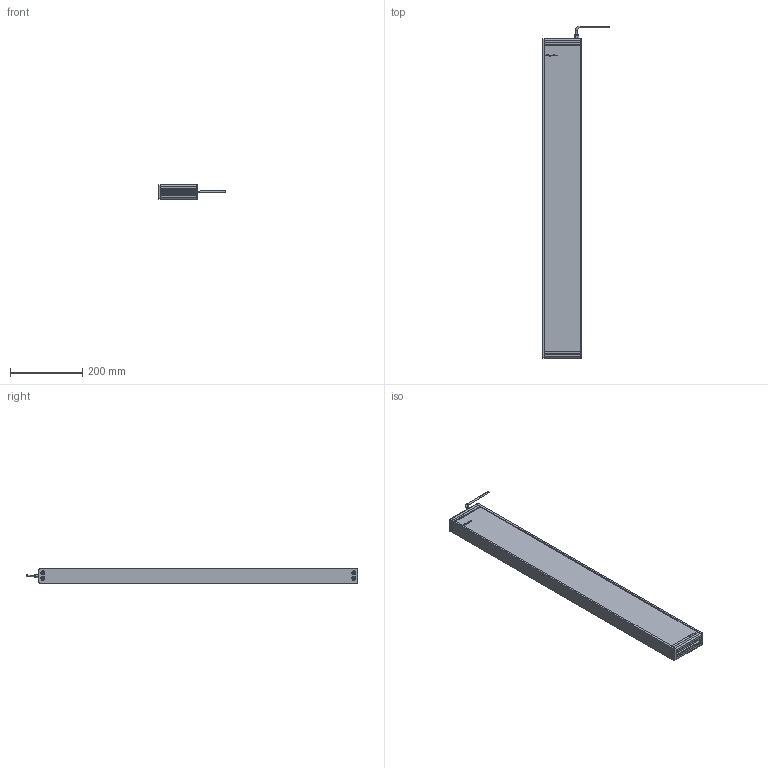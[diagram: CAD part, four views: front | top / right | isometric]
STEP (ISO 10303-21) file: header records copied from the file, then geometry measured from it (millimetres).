
FILE_DESCRIPTION (( 'STEP AP214' ), '1' );
FILE_NAME ('EFFI-BL-100T-850-1M12.STEP', '2021-06-28T08:39:51', ( '' ), ( '' ), 'SwSTEP 2.0', 'SolidWorks 2021', '' );
FILE_SCHEMA (( 'AUTOMOTIVE_DESIGN' ));
Length unit declared in the file: millimetre
Products named in the file (7): EFFI-BL-100T-850-1M12; Pièce2^EFFI-BL-XXXT-YYY + M12; 003776; profile modif_lg 99.5 mm; bord fin modif_lg 436.5 mm; cordon_Avec cable
Assembly tree (14 placements, depth 2):
  EFFI-BL-100T-850-1M12
    profile modif_lg 99.5 mm
    bord fin modif_lg 436.5 mm  x2
    Pièce2^EFFI-BL-XXXT-YYY + M12
    profile modif_lg 99.5 mm
    003776  x8
    cordon_Avec cable
Bounding box: 187.13 x 921.15 x 40 mm (x, y, z)
Volume: 3408902.2 mm3; surface area: 434131.4 mm2
Topology: 13 solids, 19 shells, 629 faces, 1602 edges, 1029 vertices
Faces by surface type: plane 325, bspline 180, cylinder 96, cone 18, torus 10
Entity records: 19192 total; most frequent: CARTESIAN_POINT 7634, ORIENTED_EDGE 2332, DIRECTION 1838, EDGE_CURVE 1170, LINE 794, VECTOR 794, VERTEX_POINT 772, AXIS2_PLACEMENT_3D 522
